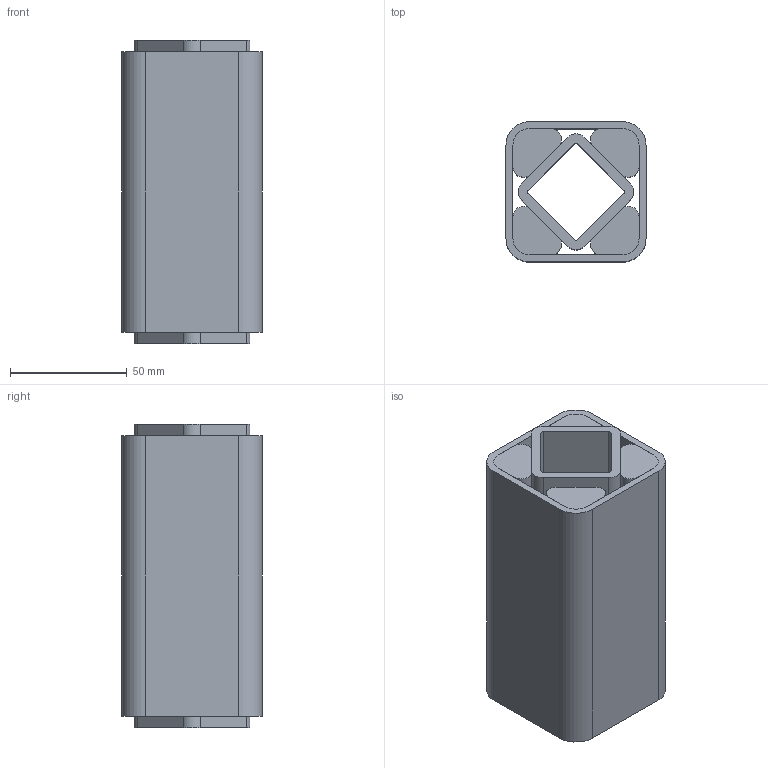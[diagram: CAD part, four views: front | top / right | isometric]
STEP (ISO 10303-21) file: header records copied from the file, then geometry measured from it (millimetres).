
FILE_DESCRIPTION((''),'2;1');
FILE_NAME('D:\ROSTA\Gummifederelemente\3D\DR-S38x120_01021015.stp','2005-02-02T06:39:00',('Administrator'),(''),'Autodesk Inventor 8','Autodesk Inventor 8','');
FILE_SCHEMA(('AUTOMOTIVE_DESIGN { 1 0 10303 214 1 1 1 1 }'));
Length unit declared in the file: millimetre
Products named in the file (4): Baugruppe10; 4.4.3729-009; 4.4.3729-010; 4.4.3729-011
Assembly tree (6 placements, depth 2):
  Baugruppe10
    4.4.3729-009
    4.4.3729-010
    4.4.3729-011  x4
Bounding box: 60 x 60 x 130 mm (x, y, z)
Volume: 292438.9 mm3; surface area: 122364.3 mm2
Topology: 6 solids, 6 shells, 68 faces, 168 edges, 112 vertices
Faces by surface type: plane 40, cylinder 28
Entity records: 1491 total; most frequent: DIRECTION 260, CARTESIAN_POINT 244, ORIENTED_EDGE 228, EDGE_CURVE 114, AXIS2_PLACEMENT_3D 92, VERTEX_POINT 76, VECTOR 76, LINE 76
